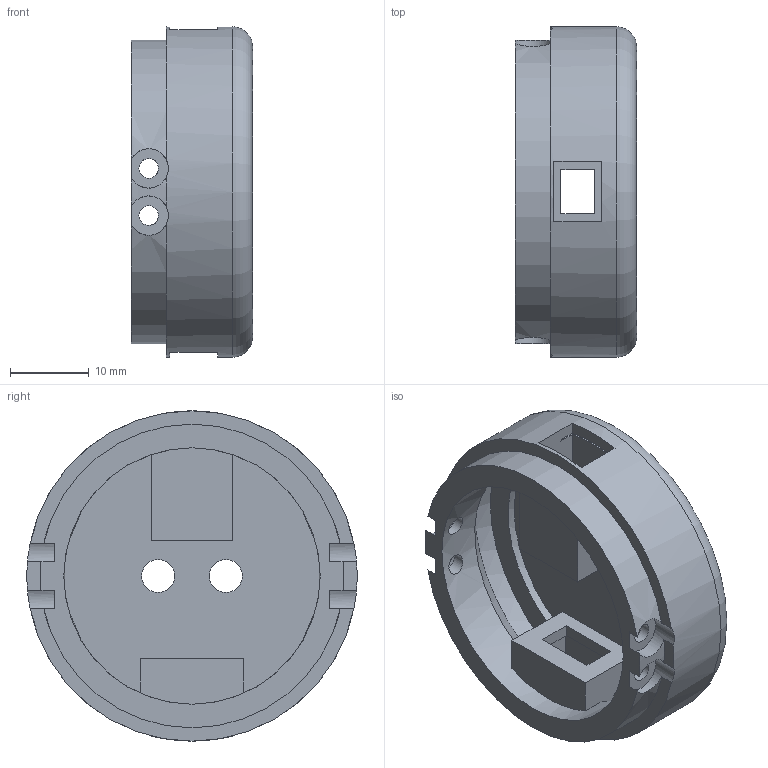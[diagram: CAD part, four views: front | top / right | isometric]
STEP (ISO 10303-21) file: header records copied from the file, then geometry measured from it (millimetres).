
FILE_DESCRIPTION(('Open CASCADE Model'),'2;1');
FILE_NAME('Open CASCADE Shape Model','2026-11-07T02:16:25',('Author'),( 'Open CASCADE'),'Open CASCADE STEP processor 8.0','build123d', 'Unknown');
FILE_SCHEMA(('AUTOMOTIVE_DESIGN { 1 0 10303 214 1 1 1 1 }'));
Length unit declared in the file: millimetre
Products named in the file (1): COMPOUND
Bounding box: 15.4 x 42 x 42 mm (x, y, z)
Volume: 8306.1 mm3; surface area: 7911.9 mm2
Topology: 1 solids, 1 shells, 69 faces, 213 edges, 141 vertices
Faces by surface type: plane 44, cylinder 20, cone 4, torus 1
Full cylindrical faces by diameter (mm): 2.5 x4, 4.2 x2, 32.6 x2, 39 x1, 42 x1
Entity records: 6483 total; most frequent: CARTESIAN_POINT 2541, DIRECTION 642, ORIENTED_EDGE 426, PCURVE 426, DEFINITIONAL_REPRESENTATION 426, LINE 308, VECTOR 308, EDGE_CURVE 213
